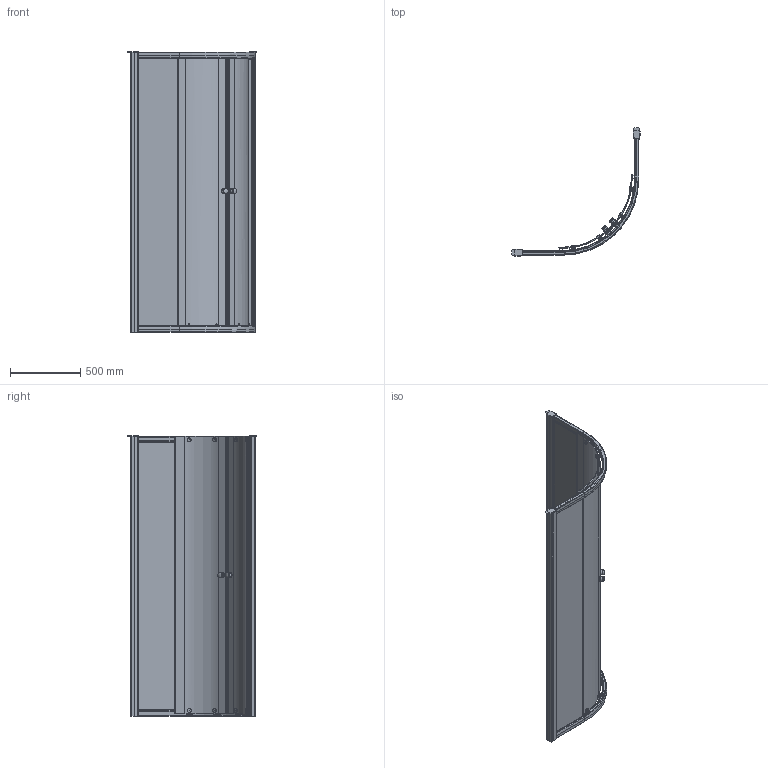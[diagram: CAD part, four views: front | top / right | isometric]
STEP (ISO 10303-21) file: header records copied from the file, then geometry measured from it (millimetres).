
FILE_DESCRIPTION(/* description */ (''),/* implementation_level */ '2;1');
FILE_NAME(/* name */ 'E:\Работа\Сергей\Душевые кабинки\! Работа\GUWER GK-664R\GUWER GK-664R-3D.stp',/* time_stamp */ '2017-09-30T15:41:32+03:00',/* author */ ('PC'),/* organization */ (''),/* preprocessor_version */ 'ST-DEVELOPER v15.2',/* originating_system */ 'Autodesk Inventor 2014',/* authorisation */ '');
FILE_SCHEMA (('AUTOMOTIVE_DESIGN { 1 0 10303 214 3 1 1 }'));
Length unit declared in the file: millimetre
Products named in the file (1): GUWER GK-664R-3D
Bounding box: 917.14 x 917.14 x 2002.01 mm (x, y, z)
Volume: 29724750.3 mm3; surface area: 7375910.1 mm2
Topology: 9 solids, 41 shells, 1459 faces, 3595 edges, 2221 vertices
Faces by surface type: plane 658, cylinder 504, torus 128, bspline 91, cone 42, sphere 36
Full cylindrical faces by diameter (mm): 3.7 x12, 4.1 x3, 5.3 x6, 6 x12, 7 x4, 8 x4, 10.2 x8, 11 x24, 13.2 x8, 14.1 x12, 20.4 x4, 22.6 x4, 24.2 x12, 28.7 x8, 38 x8
Entity records: 47777 total; most frequent: CARTESIAN_POINT 12635, DIRECTION 7083, ORIENTED_EDGE 6750, EDGE_CURVE 3363, AXIS2_PLACEMENT_3D 2655, VERTEX_POINT 2158, LINE 1773, VECTOR 1773
